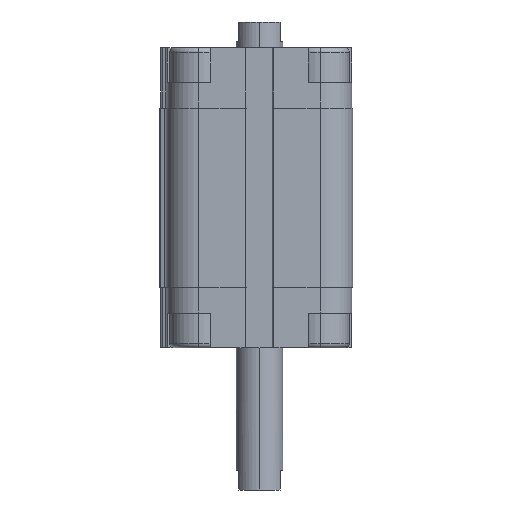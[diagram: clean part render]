
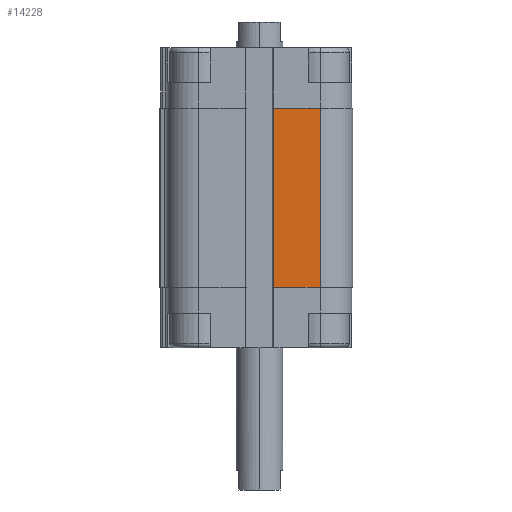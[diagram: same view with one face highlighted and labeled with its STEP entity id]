
A CAD part, left-side view. The second image highlights one B-rep face of the part: STEP entity #14228.
In plain terms, the highlighted planar face has unit normal (-1, 0, 0).
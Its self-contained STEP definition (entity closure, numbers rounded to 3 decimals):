
#587 = ORIENTED_EDGE ( 'NONE', *, *, #8017, .F. ) ;
#864 = ORIENTED_EDGE ( 'NONE', *, *, #4236, .T. ) ;
#974 = DIRECTION ( 'NONE',  ( 0., -1., 0. ) ) ;
#1779 = LINE ( 'NONE', #10495, #15851 ) ;
#1880 = VERTEX_POINT ( 'NONE', #2269 ) ;
#1966 = LINE ( 'NONE', #3374, #6846 ) ;
#2269 = CARTESIAN_POINT ( 'NONE',  ( -20., -3.1, -51.5 ) ) ;
#2374 = DIRECTION ( 'NONE',  ( 0., -1., 0. ) ) ;
#3374 = CARTESIAN_POINT ( 'NONE',  ( -20., -3.1, -51.5 ) ) ;
#4034 = PLANE ( 'NONE',  #18518 ) ;
#4163 = CARTESIAN_POINT ( 'NONE',  ( -20., -13., -13. ) ) ;
#4236 = EDGE_CURVE ( 'NONE', #1880, #6798, #6784, .T. ) ;
#6025 = VERTEX_POINT ( 'NONE', #10825 ) ;
#6594 = CARTESIAN_POINT ( 'NONE',  ( -20., -3.1, -13. ) ) ;
#6779 = EDGE_CURVE ( 'NONE', #6798, #12555, #1779, .T. ) ;
#6784 = LINE ( 'NONE', #9876, #7037 ) ;
#6798 = VERTEX_POINT ( 'NONE', #8898 ) ;
#6846 = VECTOR ( 'NONE', #9083, 1000. ) ;
#7037 = VECTOR ( 'NONE', #974, 1000. ) ;
#7494 = DIRECTION ( 'NONE',  ( 0., 0., 1. ) ) ;
#8017 = EDGE_CURVE ( 'NONE', #1880, #6025, #1966, .T. ) ;
#8898 = CARTESIAN_POINT ( 'NONE',  ( -20., -13., -51.5 ) ) ;
#9083 = DIRECTION ( 'NONE',  ( 0., 0., 1. ) ) ;
#9876 = CARTESIAN_POINT ( 'NONE',  ( -20., -3.1, -51.5 ) ) ;
#10495 = CARTESIAN_POINT ( 'NONE',  ( -20., -13., -51.5 ) ) ;
#10825 = CARTESIAN_POINT ( 'NONE',  ( -20., -3.1, -13. ) ) ;
#11248 = DIRECTION ( 'NONE',  ( -1., 0., 0. ) ) ;
#12555 = VERTEX_POINT ( 'NONE', #4163 ) ;
#12816 = ORIENTED_EDGE ( 'NONE', *, *, #6779, .T. ) ;
#13040 = EDGE_LOOP ( 'NONE', ( #15998, #587, #864, #12816 ) ) ;
#13667 = VECTOR ( 'NONE', #2374, 1000. ) ;
#13713 = LINE ( 'NONE', #6594, #13667 ) ;
#14228 = ADVANCED_FACE ( 'NONE', ( #14356 ), #4034, .T. ) ;
#14356 = FACE_OUTER_BOUND ( 'NONE', #13040, .T. ) ;
#15395 = CARTESIAN_POINT ( 'NONE',  ( -20., -3.1, -51.5 ) ) ;
#15851 = VECTOR ( 'NONE', #7494, 1000. ) ;
#15998 = ORIENTED_EDGE ( 'NONE', *, *, #17644, .F. ) ;
#17174 = DIRECTION ( 'NONE',  ( 0., -1., 0. ) ) ;
#17644 = EDGE_CURVE ( 'NONE', #6025, #12555, #13713, .T. ) ;
#18518 = AXIS2_PLACEMENT_3D ( 'NONE', #15395, #11248, #17174 ) ;
